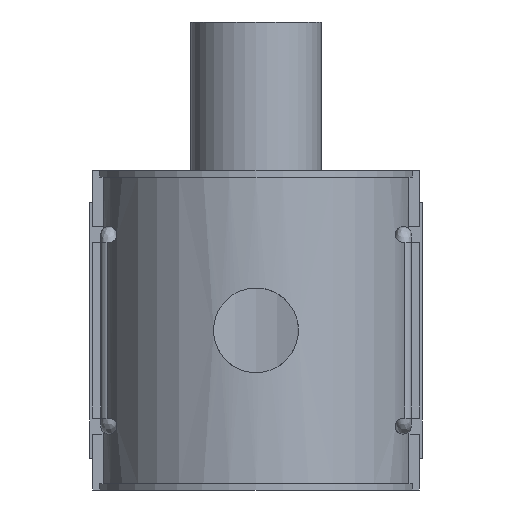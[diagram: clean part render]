
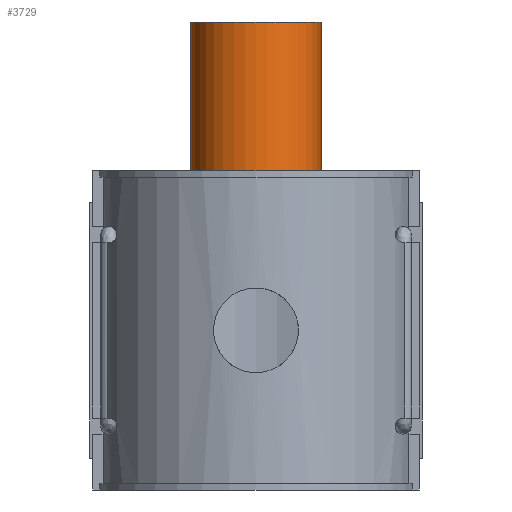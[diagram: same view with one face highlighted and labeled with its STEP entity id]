
A CAD part, front view. The second image highlights one B-rep face of the part: STEP entity #3729.
In plain terms, the highlighted cylindrical face has radius 24.05 mm (diameter 48.1 mm), a full revolution.
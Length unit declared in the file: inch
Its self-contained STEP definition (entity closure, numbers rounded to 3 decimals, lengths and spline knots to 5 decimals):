
#337=CIRCLE('',#4094,0.94685);
#338=CIRCLE('',#4095,0.94685);
#339=CIRCLE('',#4096,0.94685);
#340=CIRCLE('',#4097,0.94685);
#551=FACE_OUTER_BOUND('',#778,.T.);
#778=EDGE_LOOP('',(#3456,#3457,#3458,#3459,#3460,#3461));
#1102=LINE('',#7850,#1422);
#1422=VECTOR('',#5107,0.94685);
#1839=VERTEX_POINT('',#7845);
#1840=VERTEX_POINT('',#7846);
#1841=VERTEX_POINT('',#7849);
#1842=VERTEX_POINT('',#7851);
#2380=EDGE_CURVE('',#1839,#1840,#337,.T.);
#2381=EDGE_CURVE('',#1840,#1839,#338,.T.);
#2382=EDGE_CURVE('',#1840,#1841,#1102,.T.);
#2383=EDGE_CURVE('',#1841,#1842,#339,.T.);
#2384=EDGE_CURVE('',#1842,#1841,#340,.T.);
#3456=ORIENTED_EDGE('',*,*,#2380,.F.);
#3457=ORIENTED_EDGE('',*,*,#2381,.F.);
#3458=ORIENTED_EDGE('',*,*,#2382,.T.);
#3459=ORIENTED_EDGE('',*,*,#2383,.T.);
#3460=ORIENTED_EDGE('',*,*,#2384,.T.);
#3461=ORIENTED_EDGE('',*,*,#2382,.F.);
#3527=CYLINDRICAL_SURFACE('',#4093,0.94685);
#3729=ADVANCED_FACE('',(#551),#3527,.T.);
#4093=AXIS2_PLACEMENT_3D('',#7844,#5101,#5102);
#4094=AXIS2_PLACEMENT_3D('',#7847,#5103,#5104);
#4095=AXIS2_PLACEMENT_3D('',#7848,#5105,#5106);
#4096=AXIS2_PLACEMENT_3D('',#7852,#5108,#5109);
#4097=AXIS2_PLACEMENT_3D('',#7853,#5110,#5111);
#5101=DIRECTION('center_axis',(0.,0.,1.));
#5102=DIRECTION('ref_axis',(0.,-1.,0.));
#5103=DIRECTION('center_axis',(0.,0.,1.));
#5104=DIRECTION('ref_axis',(1.,0.,0.));
#5105=DIRECTION('center_axis',(0.,0.,1.));
#5106=DIRECTION('ref_axis',(1.,0.,0.));
#5107=DIRECTION('',(0.,0.,-1.));
#5108=DIRECTION('center_axis',(0.,0.,1.));
#5109=DIRECTION('ref_axis',(1.,0.,0.));
#5110=DIRECTION('center_axis',(0.,0.,1.));
#5111=DIRECTION('ref_axis',(1.,0.,0.));
#7844=CARTESIAN_POINT('Origin',(0.,4.30606,2.245));
#7845=CARTESIAN_POINT('',(0.,3.35921,4.49));
#7846=CARTESIAN_POINT('',(0.,5.25291,4.49));
#7847=CARTESIAN_POINT('Origin',(0.,4.30606,4.49));
#7848=CARTESIAN_POINT('Origin',(0.,4.30606,4.49));
#7849=CARTESIAN_POINT('',(0.,5.25291,0.));
#7850=CARTESIAN_POINT('',(0.,5.25291,2.245));
#7851=CARTESIAN_POINT('',(0.,3.35921,0.));
#7852=CARTESIAN_POINT('Origin',(0.,4.30606,0.));
#7853=CARTESIAN_POINT('Origin',(0.,4.30606,0.));
